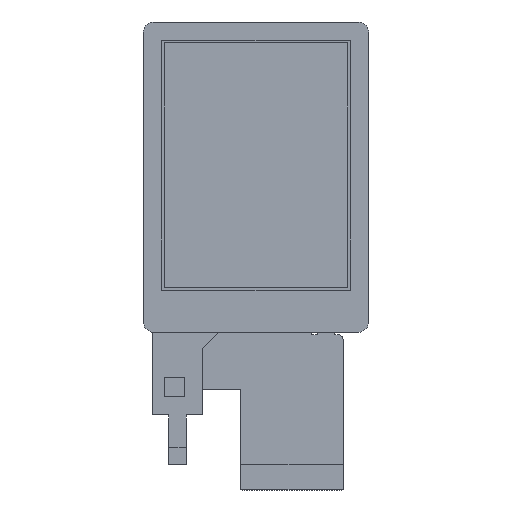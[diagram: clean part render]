
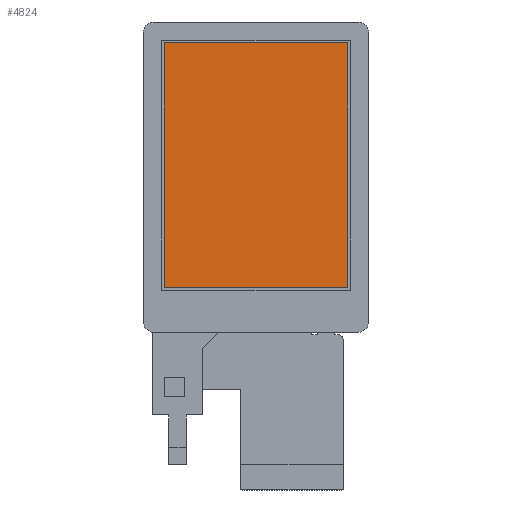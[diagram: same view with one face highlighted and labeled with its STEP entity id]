
A CAD part, top view. The second image highlights one B-rep face of the part: STEP entity #4824.
In plain terms, the highlighted planar face has unit normal (0, 0, 1).
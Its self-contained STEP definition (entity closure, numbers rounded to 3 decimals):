
#192 = EDGE_CURVE ( 'NONE', #8514, #5336, #8626, .T. ) ;
#740 = DIRECTION ( 'NONE',  ( 0., 1., 0. ) ) ;
#1340 = DIRECTION ( 'NONE',  ( 1., 0., 0. ) ) ;
#1594 = CARTESIAN_POINT ( 'NONE',  ( 18.36, 26.85, 2.975 ) ) ;
#1637 = EDGE_CURVE ( 'NONE', #9753, #8514, #10814, .T. ) ;
#2334 = ORIENTED_EDGE ( 'NONE', *, *, #5546, .F. ) ;
#3034 = DIRECTION ( 'NONE',  ( 1., 0., 0. ) ) ;
#3039 = CARTESIAN_POINT ( 'NONE',  ( 18.36, -22.11, 2.975 ) ) ;
#3262 = VECTOR ( 'NONE', #3034, 1000. ) ;
#3442 = ORIENTED_EDGE ( 'NONE', *, *, #1637, .F. ) ;
#4388 = CARTESIAN_POINT ( 'NONE',  ( 0., -22.11, 2.975 ) ) ;
#4501 = DIRECTION ( 'NONE',  ( 0., -1., 0. ) ) ;
#4809 = VERTEX_POINT ( 'NONE', #3039 ) ;
#4824 = ADVANCED_FACE ( 'NONE', ( #14172 ), #6541, .T. ) ;
#5180 = VECTOR ( 'NONE', #740, 1000. ) ;
#5192 = CARTESIAN_POINT ( 'NONE',  ( -18.36, 0., 2.975 ) ) ;
#5336 = VERTEX_POINT ( 'NONE', #1594 ) ;
#5476 = VECTOR ( 'NONE', #4501, 1000. ) ;
#5546 = EDGE_CURVE ( 'NONE', #5336, #4809, #11326, .T. ) ;
#5657 = LINE ( 'NONE', #4388, #14346 ) ;
#5846 = EDGE_LOOP ( 'NONE', ( #3442, #6280, #2334, #14571 ) ) ;
#6097 = CARTESIAN_POINT ( 'NONE',  ( -18.36, 26.85, 2.975 ) ) ;
#6252 = DIRECTION ( 'NONE',  ( 0., 0., 1. ) ) ;
#6280 = ORIENTED_EDGE ( 'NONE', *, *, #11617, .F. ) ;
#6541 = PLANE ( 'NONE',  #14546 ) ;
#6867 = CARTESIAN_POINT ( 'NONE',  ( 18.36, 0., 2.975 ) ) ;
#8514 = VERTEX_POINT ( 'NONE', #6097 ) ;
#8626 = LINE ( 'NONE', #11891, #3262 ) ;
#9753 = VERTEX_POINT ( 'NONE', #13691 ) ;
#10814 = LINE ( 'NONE', #5192, #5180 ) ;
#11326 = LINE ( 'NONE', #6867, #5476 ) ;
#11617 = EDGE_CURVE ( 'NONE', #4809, #9753, #5657, .T. ) ;
#11891 = CARTESIAN_POINT ( 'NONE',  ( 0., 26.85, 2.975 ) ) ;
#13691 = CARTESIAN_POINT ( 'NONE',  ( -18.36, -22.11, 2.975 ) ) ;
#14172 = FACE_OUTER_BOUND ( 'NONE', #5846, .T. ) ;
#14179 = DIRECTION ( 'NONE',  ( -1., 0., 0. ) ) ;
#14346 = VECTOR ( 'NONE', #14179, 1000. ) ;
#14471 = CARTESIAN_POINT ( 'NONE',  ( 0., 0., 2.975 ) ) ;
#14546 = AXIS2_PLACEMENT_3D ( 'NONE', #14471, #6252, #1340 ) ;
#14571 = ORIENTED_EDGE ( 'NONE', *, *, #192, .F. ) ;
